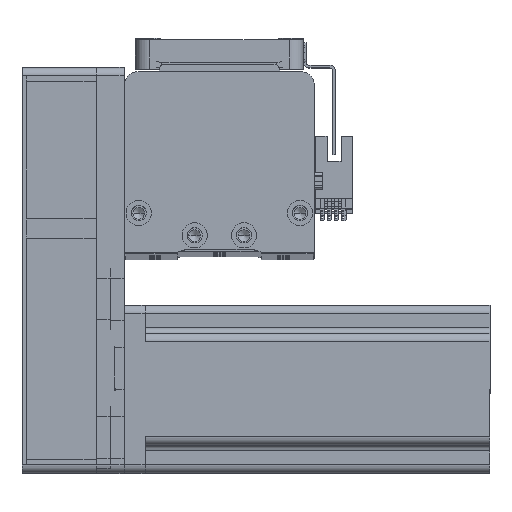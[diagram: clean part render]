
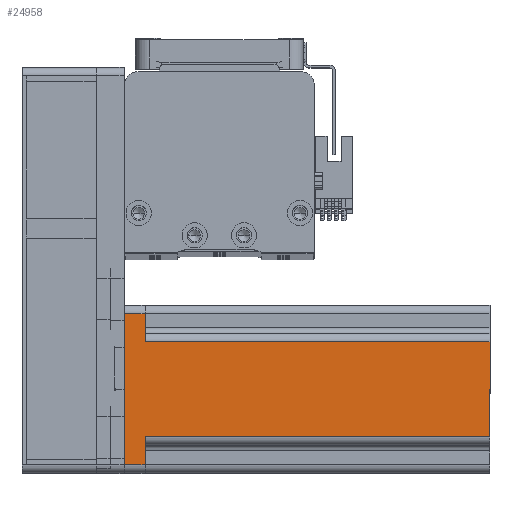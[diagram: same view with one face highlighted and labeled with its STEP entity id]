
A CAD part, top view. The second image highlights one B-rep face of the part: STEP entity #24958.
In plain terms, the highlighted planar face has unit normal (0, 0, 1) as drawn and (0, -1, 0) by its records, which use the part's own axes.
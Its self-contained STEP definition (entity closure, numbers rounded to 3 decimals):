
#1096 = EDGE_CURVE ( 'NONE', #37229, #14934, #18818, .T. ) ;
#1489 = CARTESIAN_POINT ( 'NONE',  ( 17., -30., 7.5 ) ) ;
#2338 = VECTOR ( 'NONE', #26958, 1000. ) ;
#3250 = ORIENTED_EDGE ( 'NONE', *, *, #20269, .T. ) ;
#4498 = CARTESIAN_POINT ( 'NONE',  ( -17., -30., 7.5 ) ) ;
#5223 = CARTESIAN_POINT ( 'NONE',  ( -27., -30., 7.5 ) ) ;
#7124 = EDGE_CURVE ( 'NONE', #18576, #48404, #46809, .T. ) ;
#8738 = VECTOR ( 'NONE', #27452, 1000. ) ;
#11904 = DIRECTION ( 'NONE',  ( 1., 0., 0. ) ) ;
#11932 = DIRECTION ( 'NONE',  ( 0., 0., -1. ) ) ;
#11999 = DIRECTION ( 'NONE',  ( 0., 1., 0. ) ) ;
#13919 = LINE ( 'NONE', #19173, #2338 ) ;
#14618 = CARTESIAN_POINT ( 'NONE',  ( 27., -30., 130.7 ) ) ;
#14934 = VERTEX_POINT ( 'NONE', #20897 ) ;
#15526 = LINE ( 'NONE', #15625, #36307 ) ;
#15625 = CARTESIAN_POINT ( 'NONE',  ( -27., -30., 130.7 ) ) ;
#17119 = CARTESIAN_POINT ( 'NONE',  ( -17., -30., 130.7 ) ) ;
#17261 = EDGE_CURVE ( 'NONE', #48404, #18487, #41991, .T. ) ;
#17699 = VERTEX_POINT ( 'NONE', #42217 ) ;
#18002 = ORIENTED_EDGE ( 'NONE', *, *, #29351, .F. ) ;
#18222 = ORIENTED_EDGE ( 'NONE', *, *, #1096, .F. ) ;
#18487 = VERTEX_POINT ( 'NONE', #1489 ) ;
#18576 = VERTEX_POINT ( 'NONE', #33210 ) ;
#18818 = LINE ( 'NONE', #41057, #37099 ) ;
#19130 = LINE ( 'NONE', #35367, #8738 ) ;
#19173 = CARTESIAN_POINT ( 'NONE',  ( -20., -30., 7.5 ) ) ;
#19635 = PLANE ( 'NONE',  #44180 ) ;
#19871 = CARTESIAN_POINT ( 'NONE',  ( 27., -30., 7.5 ) ) ;
#20026 = LINE ( 'NONE', #39166, #30398 ) ;
#20269 = EDGE_CURVE ( 'NONE', #17699, #18576, #20026, .T. ) ;
#20897 = CARTESIAN_POINT ( 'NONE',  ( 17., -30., 130.7 ) ) ;
#21153 = VECTOR ( 'NONE', #36849, 1000. ) ;
#21494 = ORIENTED_EDGE ( 'NONE', *, *, #22457, .T. ) ;
#21579 = DIRECTION ( 'NONE',  ( 1., 0., 0. ) ) ;
#22457 = EDGE_CURVE ( 'NONE', #37229, #25648, #19130, .T. ) ;
#24154 = FACE_OUTER_BOUND ( 'NONE', #44282, .T. ) ;
#24958 = ADVANCED_FACE ( 'NONE', ( #24154 ), #19635, .F. ) ;
#25648 = VERTEX_POINT ( 'NONE', #4498 ) ;
#26055 = ORIENTED_EDGE ( 'NONE', *, *, #7124, .T. ) ;
#26056 = LINE ( 'NONE', #27633, #34074 ) ;
#26958 = DIRECTION ( 'NONE',  ( 1., 0., 0. ) ) ;
#27452 = DIRECTION ( 'NONE',  ( 0., 0., -1. ) ) ;
#27633 = CARTESIAN_POINT ( 'NONE',  ( 17., -30., 130.7 ) ) ;
#29351 = EDGE_CURVE ( 'NONE', #50323, #25648, #13919, .T. ) ;
#29441 = EDGE_CURVE ( 'NONE', #18487, #14934, #26056, .T. ) ;
#30398 = VECTOR ( 'NONE', #11904, 1000. ) ;
#31637 = DIRECTION ( 'NONE',  ( 0., 0., 1. ) ) ;
#33210 = CARTESIAN_POINT ( 'NONE',  ( 27., -30., 0. ) ) ;
#33314 = ORIENTED_EDGE ( 'NONE', *, *, #17261, .T. ) ;
#33758 = EDGE_CURVE ( 'NONE', #50323, #17699, #15526, .T. ) ;
#34055 = ORIENTED_EDGE ( 'NONE', *, *, #29441, .T. ) ;
#34074 = VECTOR ( 'NONE', #31637, 1000. ) ;
#35356 = CARTESIAN_POINT ( 'NONE',  ( 30., -30., 130.7 ) ) ;
#35367 = CARTESIAN_POINT ( 'NONE',  ( -17., -30., 130.7 ) ) ;
#36219 = ORIENTED_EDGE ( 'NONE', *, *, #33758, .T. ) ;
#36307 = VECTOR ( 'NONE', #11932, 1000. ) ;
#36849 = DIRECTION ( 'NONE',  ( -1., 0., 0. ) ) ;
#37099 = VECTOR ( 'NONE', #21579, 1000. ) ;
#37229 = VERTEX_POINT ( 'NONE', #17119 ) ;
#37973 = DIRECTION ( 'NONE',  ( 0., 0., 1. ) ) ;
#39166 = CARTESIAN_POINT ( 'NONE',  ( 30., -30., 0. ) ) ;
#39274 = DIRECTION ( 'NONE',  ( -1., 0., 0. ) ) ;
#41057 = CARTESIAN_POINT ( 'NONE',  ( 30., -30., 130.7 ) ) ;
#41991 = LINE ( 'NONE', #48540, #21153 ) ;
#42217 = CARTESIAN_POINT ( 'NONE',  ( -27., -30., 0. ) ) ;
#44180 = AXIS2_PLACEMENT_3D ( 'NONE', #35356, #11999, #39274 ) ;
#44282 = EDGE_LOOP ( 'NONE', ( #18222, #21494, #18002, #36219, #3250, #26055, #33314, #34055 ) ) ;
#45585 = VECTOR ( 'NONE', #37973, 1000. ) ;
#46809 = LINE ( 'NONE', #14618, #45585 ) ;
#48404 = VERTEX_POINT ( 'NONE', #19871 ) ;
#48540 = CARTESIAN_POINT ( 'NONE',  ( 20., -30., 7.5 ) ) ;
#50323 = VERTEX_POINT ( 'NONE', #5223 ) ;
